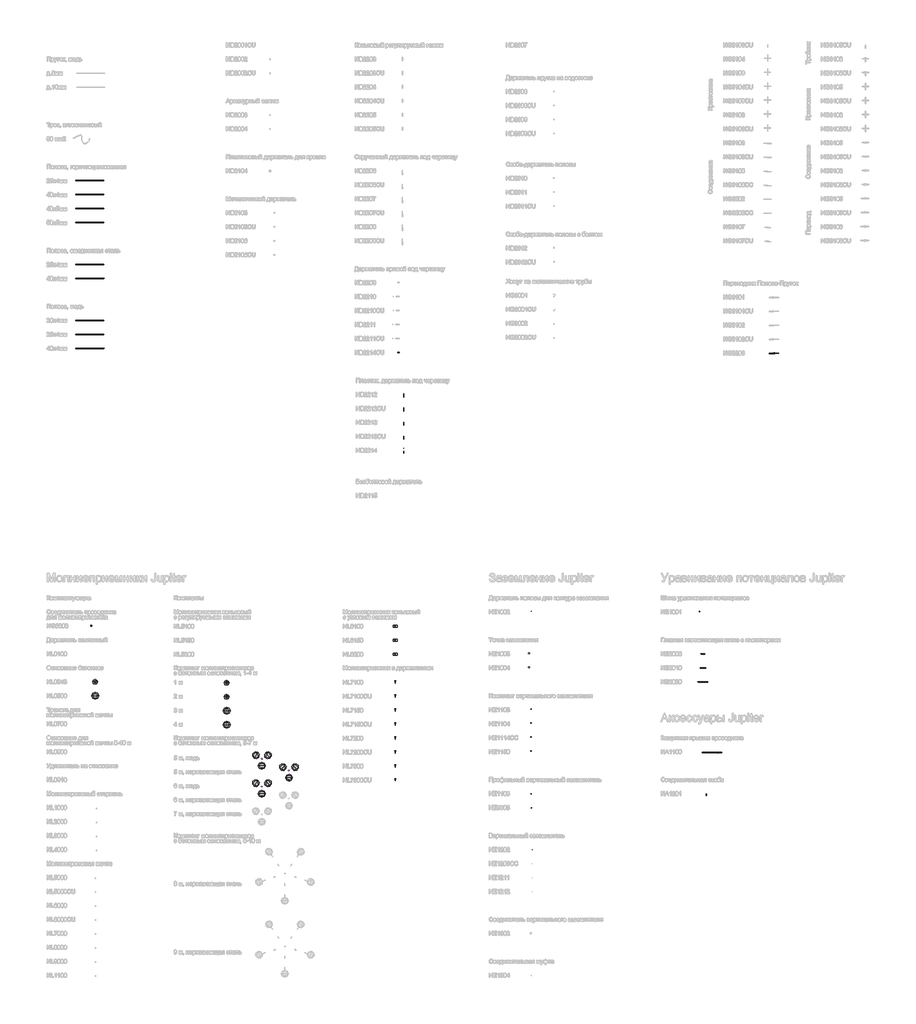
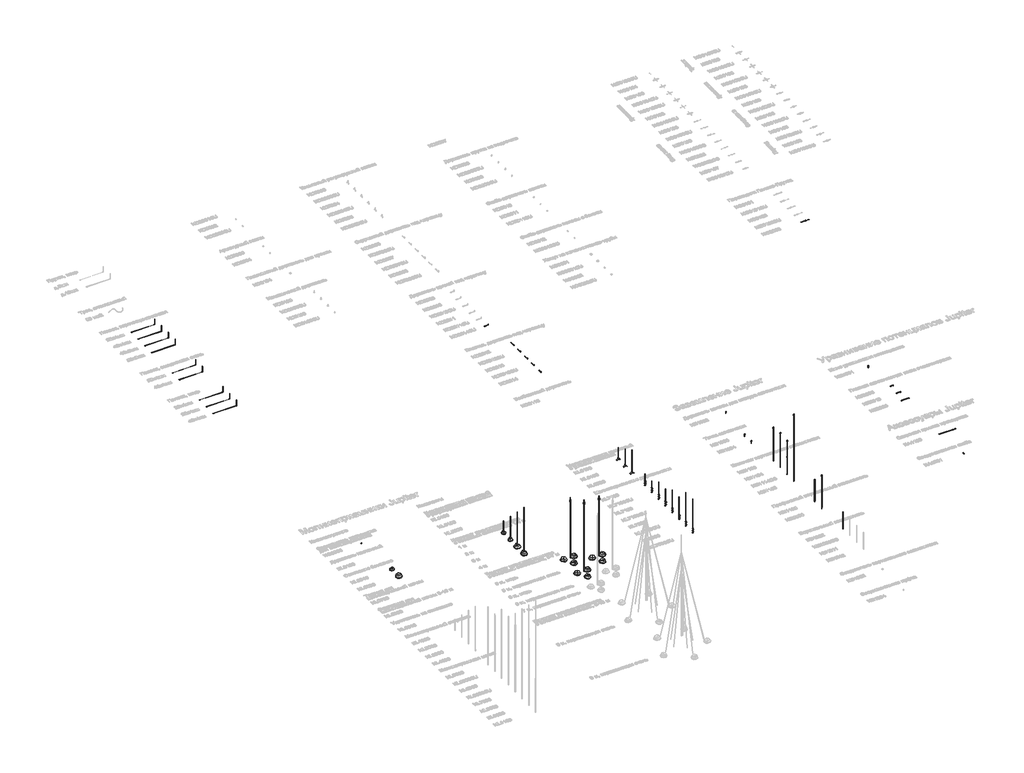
# One storey, part 2 of 124: 69 proxies, 20 duct segments, 9 duct fittings.
"""IFC4 building model written with IfcOpenShell, lengths in millimetres."""

from ifc_helpers import new_model, si_unit, point, frame, frame_2d, origin, place, context, project, spatial, polyline, circle_curve, trimmed, segment, composite_curve, outline, extrude, transform, mapped, element, save
from components import security_devices_b758fb0a, security_devices_eeaf92e3, security_devices_b61f97d0, security_devices_aea7dcd0, security_devices_a4980a0c, security_devices_947c4738, security_devices_8d422149, security_devices_d11747f8, security_devices_d693c095, security_devices_26e087ef, security_devices_0e7c5410, security_devices_e70f869e, security_devices_90d430a2, security_devices_a29eabd2, security_devices_7bfe0d6e, security_devices_3d68f758, security_devices_2357bbe1, security_devices_b0c16ba0, security_devices_8305dbe8, security_devices_c33634d1, security_devices_5422cca0, security_devices_521fa1ab, security_devices_15d1bd6b, security_devices_8a53b376, security_devices_fc05bfcb, security_devices_3e84176e, security_devices_1f405249, security_devices_c975d54c, security_devices_2f55b1ed, security_devices_7a772254, security_devices_4ec9087f, security_devices_2d18d4dd, security_devices_f84dac05, security_devices_a46f9e51, security_devices_b8804d78, ne1001_6f877555, ne2006_d57b77ed, ne2010_22dc5c60, ne2020_a4f37fe4, duct_fitting_d2fdc9aa, duct_fitting_b2aa22a6, duct_fitting_ef8b6955, duct_fitting_4ba52f5c, duct_fitting_e5d23d8e, duct_fitting_60905858

model = new_model("IFC4")

# Units and contexts
model_context = context("Model", 3, world=origin())
ifc_project = project(units=[si_unit("LENGTHUNIT", "METRE", prefix="MILLI")], contexts=[model_context])

# Site, building, storey
site = spatial("IfcSite", under=ifc_project)
building = spatial("IfcBuilding", under=site)
storey = spatial("IfcBuildingStorey", under=building, Name="Этаж 01", Elevation=0.0)

# Proxies
placement = place(None, origin())
security_devices_shape = security_devices_b758fb0a(model_context)
element("IfcBuildingElementProxy", 1, Name="КНС_ESEМолниеприемник_DKC : NI0015_Нержавеющая сталь V4A", ObjectType="КНС_ESEМолниеприемник_DKC : NI0015_Нержавеющая сталь V4A", at=placement, inside=storey, context=model_context, shape_type="MappedRepresentation", body=[
    mapped(security_devices_shape, transform((16677.9827012, -61433.5310744, 5229.993014), x_axis=(1.0, 0.0, 0.0), y_axis=(0.0, 1.0, 0.0), z_axis=(0.0, 0.0, 1.0))),
])
element("IfcBuildingElementProxy", 2, Name="КНС_ESEМолниеприемник_DKC : NI0015_Нержавеющая сталь V4A", ObjectType="КНС_ESEМолниеприемник_DKC : NI0015_Нержавеющая сталь V4A", at=placement, inside=storey, context=model_context, shape_type="MappedRepresentation", body=[
    mapped(security_devices_shape, transform((18612.132508, -62283.8125551, 5229.993014), x_axis=(1.0, 0.0, 0.0), y_axis=(0.0, 1.0, 0.0), z_axis=(0.0, 0.0, 1.0))),
])
element("IfcBuildingElementProxy", 3, Name="КНС_ESEМолниеприемник_DKC : NI0015_Нержавеющая сталь V4A", ObjectType="КНС_ESEМолниеприемник_DKC : NI0015_Нержавеющая сталь V4A", at=placement, inside=storey, context=model_context, shape_type="MappedRepresentation", body=[
    mapped(security_devices_shape, transform((16677.9827012, -63433.5310744, 6229.993014), x_axis=(1.0, 0.0, 0.0), y_axis=(0.0, 1.0, 0.0), z_axis=(0.0, 0.0, 1.0))),
])
security_devices_2_shape = security_devices_eeaf92e3(model_context)
element("IfcBuildingElementProxy", 4, Name="КНС_СоединительESEМолниеприемникМачта_DKC : NG6607_Алюминий", ObjectType="КНС_СоединительESEМолниеприемникМачта_DKC : NG6607_Алюминий", at=placement, inside=storey, context=model_context, shape_type="MappedRepresentation", body=[
    mapped(security_devices_2_shape, transform((16677.9827012, -61433.5310744, 5229.993014), x_axis=(1.0, 0.0, 0.0), y_axis=(0.0, 1.0, 0.0), z_axis=(0.0, 0.0, 1.0))),
])
element("IfcBuildingElementProxy", 5, Name="КНС_СоединительESEМолниеприемникМачта_DKC : NG6607_Алюминий", ObjectType="КНС_СоединительESEМолниеприемникМачта_DKC : NG6607_Алюминий", at=placement, inside=storey, context=model_context, shape_type="MappedRepresentation", body=[
    mapped(security_devices_2_shape, transform((18612.132508, -62283.8125551, 5229.993014), x_axis=(1.0, 0.0, 0.0), y_axis=(0.0, 1.0, 0.0), z_axis=(0.0, 0.0, 1.0))),
])
element("IfcBuildingElementProxy", 6, Name="КНС_СоединительESEМолниеприемникМачта_DKC : NG6607_Алюминий", ObjectType="КНС_СоединительESEМолниеприемникМачта_DKC : NG6607_Алюминий", at=placement, inside=storey, context=model_context, shape_type="MappedRepresentation", body=[
    mapped(security_devices_2_shape, transform((16677.9827012, -63433.5310744, 6229.993014), x_axis=(1.0, 0.0, 0.0), y_axis=(0.0, 1.0, 0.0), z_axis=(0.0, 0.0, 1.0))),
])
security_devices_3_shape = security_devices_b61f97d0(model_context)
element("IfcBuildingElementProxy", 7, Name="КНС_ДержательПолосыДляКонтураЗаземления _DKC : NE1002_Горячеоцинкованная сталь", ObjectType="КНС_ДержательПолосыДляКонтураЗаземления _DKC : NE1002_Горячеоцинкованная сталь", at=placement, inside=storey, context=model_context, shape_type="MappedRepresentation", body=[
    mapped(security_devices_3_shape, transform((35940.0454705, -50883.9339732, 0.0), x_axis=(1.0, 0.0, 0.0), y_axis=(0.0, 1.0, 0.0), z_axis=(0.0, 0.0, 1.0))),
])
security_devices_4_shape = security_devices_aea7dcd0(model_context)
element("IfcBuildingElementProxy", 8, Name="КНС_МачтаМолниеприемная_DKC : NL5000CU_Медь_5м", ObjectType="КНС_МачтаМолниеприемная_DKC : NL5000CU_Медь_5м", at=placement, inside=storey, context=model_context, shape_type="MappedRepresentation", body=[
    mapped(security_devices_4_shape, transform((16677.9814311, -61433.5319567, 229.993014), x_axis=(1.0, 0.0, 0.0), y_axis=(0.0, 1.0, 0.0), z_axis=(0.0, 0.0, 1.0))),
])
element("IfcBuildingElementProxy", 9, Name="КНС_МачтаМолниеприемная_DKC : NL5000_СтальНержавеющая_5м", ObjectType="КНС_МачтаМолниеприемная_DKC : NL5000_СтальНержавеющая_5м", at=placement, inside=storey, context=model_context, shape_type="MappedRepresentation", body=[
    mapped(security_devices_4_shape, transform((18612.131238, -62283.8134373, 229.993014), x_axis=(1.0, 0.0, 0.0), y_axis=(0.0, 1.0, 0.0), z_axis=(0.0, 0.0, 1.0))),
])
security_devices_5_shape = security_devices_a4980a0c(model_context)
element("IfcBuildingElementProxy", 10, Name="КНС_МачтаМолниеприемная_DKC : NL6000CU_Медь_6м", ObjectType="КНС_МачтаМолниеприемная_DKC : NL6000CU_Медь_6м", at=placement, inside=storey, context=model_context, shape_type="MappedRepresentation", body=[
    mapped(security_devices_5_shape, transform((16677.9814311, -63433.5319567, 229.993014), x_axis=(1.0, 0.0, 0.0), y_axis=(0.0, 1.0, 0.0), z_axis=(0.0, 0.0, 1.0))),
])
security_devices_6_shape = security_devices_947c4738(model_context)
element("IfcBuildingElementProxy", 11, Name="КНС_ЗаземлительВертикальныйПрофильный_DKC : NE5503_Горячеоцинкованная сталь_3м", ObjectType="КНС_ЗаземлительВертикальныйПрофильный_DKC : NE5503_Горячеоцинкованная сталь_3м", at=placement, inside=storey, context=model_context, shape_type="MappedRepresentation", body=[
    mapped(security_devices_6_shape, transform((35927.6179104, -64929.4879531, 0.0), x_axis=(1.0, 0.0, 0.0), y_axis=(0.0, 1.0, 0.0), z_axis=(0.0, 0.0, 1.0))),
])
security_devices_7_shape = security_devices_8d422149(model_context)
element("IfcBuildingElementProxy", 12, Name="КНС_КонтрольныйСоединитель_DKC : NG3203_Горячеоцинкованная сталь", ObjectType="КНС_КонтрольныйСоединитель_DKC : NG3203_Горячеоцинкованная сталь", at=placement, inside=storey, context=model_context, shape_type="MappedRepresentation", body=[
    mapped(security_devices_7_shape, transform((53325.3303693, -32431.258676, 0.0), x_axis=(0.0, -1.0, 0.0), y_axis=(1.0, 0.0, 0.0), z_axis=(0.0, 0.0, 1.0))),
])
security_devices_8_shape = security_devices_d11747f8(model_context)
element("IfcBuildingElementProxy", 13, Name="КНС_ДержательПрямойПодЧерепицу_DKC : ND2214CU_Медь_330 мм", ObjectType="КНС_ДержательПрямойПодЧерепицу_DKC : ND2214CU_Медь_330 мм", at=placement, inside=storey, context=model_context, shape_type="MappedRepresentation", body=[
    mapped(security_devices_8_shape, transform((26500.3450598, -32365.2224286, 0.0), x_axis=(0.0, 1.0, 0.0), y_axis=(-1.0, 0.0, 0.0), z_axis=(0.0, 0.0, 1.0))),
])
security_devices_9_shape = security_devices_d693c095(model_context)
element("IfcBuildingElementProxy", 14, Name="КНС_ОсновниеБетонное_DKC : NL0500_Бетон_40кг", ObjectType="КНС_ОсновниеБетонное_DKC : NL0500_Бетон_40кг", at=placement, inside=storey, context=model_context, shape_type="MappedRepresentation", body=[
    mapped(security_devices_9_shape, transform((4740.0, -56933.9372095, 0.0), x_axis=(1.0, 0.0, 0.0), y_axis=(0.0, 1.0, 0.0), z_axis=(0.0, 0.0, 1.0))),
])
element("IfcBuildingElementProxy", 15, Name="КНС_ОсновниеБетонное_DKC : NL0500_Бетон_40кг", ObjectType="КНС_ОсновниеБетонное_DKC : NL0500_Бетон_40кг", at=placement, inside=storey, context=model_context, shape_type="MappedRepresentation", body=[
    mapped(security_devices_9_shape, transform((14151.3043867, -58005.1414304, -30.0), x_axis=(1.0, 0.0, 0.0), y_axis=(0.0, 1.0, 0.0), z_axis=(0.0, 0.0, 1.0))),
])
element("IfcBuildingElementProxy", 16, Name="КНС_ОсновниеБетонное_DKC : NL0500_Бетон_40кг", ObjectType="КНС_ОсновниеБетонное_DKC : NL0500_Бетон_40кг", at=placement, inside=storey, context=model_context, shape_type="MappedRepresentation", body=[
    mapped(security_devices_9_shape, transform((14151.3043867, -59005.1414304, -30.0), x_axis=(1.0, 0.0, 0.0), y_axis=(0.0, 1.0, 0.0), z_axis=(0.0, 0.0, 1.0))),
])
element("IfcBuildingElementProxy", 17, Name="КНС_ОсновниеБетонное_DKC : NL0500_Бетон_40кг", ObjectType="КНС_ОсновниеБетонное_DKC : NL0500_Бетон_40кг", at=placement, inside=storey, context=model_context, shape_type="MappedRepresentation", body=[
    mapped(security_devices_9_shape, transform((16677.9827012, -61933.5306563, 0.0), x_axis=(-1.0, 0.0, 0.0), y_axis=(0.0, -1.0, 0.0), z_axis=(0.0, 0.0, 1.0))),
])
element("IfcBuildingElementProxy", 18, Name="КНС_ОсновниеБетонное_DKC : NL0500_Бетон_40кг", ObjectType="КНС_ОсновниеБетонное_DKC : NL0500_Бетон_40кг", at=placement, inside=storey, context=model_context, shape_type="MappedRepresentation", body=[
    mapped(security_devices_9_shape, transform((16244.9730304, -61183.53157, 0.0), x_axis=(0.5000000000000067, 0.8660254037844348, 0.0), y_axis=(-0.8660254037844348, 0.5000000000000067, 0.0), z_axis=(0.0, 0.0, 1.0))),
])
element("IfcBuildingElementProxy", 19, Name="КНС_ОсновниеБетонное_DKC : NL0500_Бетон_40кг", ObjectType="КНС_ОсновниеБетонное_DKC : NL0500_Бетон_40кг", at=placement, inside=storey, context=model_context, shape_type="MappedRepresentation", body=[
    mapped(security_devices_9_shape, transform((17110.9923719, -61183.5297425, 0.0), x_axis=(0.49999999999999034, -0.8660254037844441, 0.0), y_axis=(0.8660254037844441, 0.49999999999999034, 0.0), z_axis=(0.0, 0.0, 1.0))),
])
element("IfcBuildingElementProxy", 20, Name="КНС_ОсновниеБетонное_DKC : NL0500_Бетон_40кг", ObjectType="КНС_ОсновниеБетонное_DKC : NL0500_Бетон_40кг", at=placement, inside=storey, context=model_context, shape_type="MappedRepresentation", body=[
    mapped(security_devices_9_shape, transform((18612.132508, -62783.8121369, 0.0), x_axis=(-1.0, 0.0, 0.0), y_axis=(0.0, -1.0, 0.0), z_axis=(0.0, 0.0, 1.0))),
])
element("IfcBuildingElementProxy", 21, Name="КНС_ОсновниеБетонное_DKC : NL0500_Бетон_40кг", ObjectType="КНС_ОсновниеБетонное_DKC : NL0500_Бетон_40кг", at=placement, inside=storey, context=model_context, shape_type="MappedRepresentation", body=[
    mapped(security_devices_9_shape, transform((18179.1228373, -62033.8130506, 0.0), x_axis=(0.5000000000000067, 0.8660254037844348, 0.0), y_axis=(-0.8660254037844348, 0.5000000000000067, 0.0), z_axis=(0.0, 0.0, 1.0))),
])
element("IfcBuildingElementProxy", 22, Name="КНС_ОсновниеБетонное_DKC : NL0500_Бетон_40кг", ObjectType="КНС_ОсновниеБетонное_DKC : NL0500_Бетон_40кг", at=placement, inside=storey, context=model_context, shape_type="MappedRepresentation", body=[
    mapped(security_devices_9_shape, transform((19045.1421788, -62033.8112232, 0.0), x_axis=(0.49999999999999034, -0.8660254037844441, 0.0), y_axis=(0.8660254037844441, 0.49999999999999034, 0.0), z_axis=(0.0, 0.0, 1.0))),
])
element("IfcBuildingElementProxy", 23, Name="КНС_ОсновниеБетонное_DKC : NL0500_Бетон_40кг", ObjectType="КНС_ОсновниеБетонное_DKC : NL0500_Бетон_40кг", at=placement, inside=storey, context=model_context, shape_type="MappedRepresentation", body=[
    mapped(security_devices_9_shape, transform((16677.9827012, -63933.5306563, 0.0), x_axis=(-1.0, 0.0, 0.0), y_axis=(0.0, -1.0, 0.0), z_axis=(0.0, 0.0, 1.0))),
])
element("IfcBuildingElementProxy", 24, Name="КНС_ОсновниеБетонное_DKC : NL0500_Бетон_40кг", ObjectType="КНС_ОсновниеБетонное_DKC : NL0500_Бетон_40кг", at=placement, inside=storey, context=model_context, shape_type="MappedRepresentation", body=[
    mapped(security_devices_9_shape, transform((16244.9730304, -63183.53157, 0.0), x_axis=(0.5000000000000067, 0.8660254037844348, 0.0), y_axis=(-0.8660254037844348, 0.5000000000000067, 0.0), z_axis=(0.0, 0.0, 1.0))),
])
element("IfcBuildingElementProxy", 25, Name="КНС_ОсновниеБетонное_DKC : NL0500_Бетон_40кг", ObjectType="КНС_ОсновниеБетонное_DKC : NL0500_Бетон_40кг", at=placement, inside=storey, context=model_context, shape_type="MappedRepresentation", body=[
    mapped(security_devices_9_shape, transform((17110.9923719, -63183.5297425, 0.0), x_axis=(0.49999999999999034, -0.8660254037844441, 0.0), y_axis=(0.8660254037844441, 0.49999999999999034, 0.0), z_axis=(0.0, 0.0, 1.0))),
])
security_devices_10_shape = security_devices_26e087ef(model_context)
element("IfcBuildingElementProxy", 26, Name="КНС_ОсновниеБетонное_DKC : NL0345_Бетон_20кг", ObjectType="КНС_ОсновниеБетонное_DKC : NL0345_Бетон_20кг", at=placement, inside=storey, context=model_context, shape_type="MappedRepresentation", body=[
    mapped(security_devices_10_shape, transform((4740.0, -55933.9372095, 0.0), x_axis=(1.0, 0.0, 0.0), y_axis=(0.0, 1.0, 0.0), z_axis=(0.0, 0.0, 1.0))),
])
element("IfcBuildingElementProxy", 27, Name="КНС_ОсновниеБетонное_DKC : NL0345_Бетон_20кг", ObjectType="КНС_ОсновниеБетонное_DKC : NL0345_Бетон_20кг", at=placement, inside=storey, context=model_context, shape_type="MappedRepresentation", body=[
    mapped(security_devices_10_shape, transform((14151.3043867, -56005.1414304, 0.0), x_axis=(1.0, 0.0, 0.0), y_axis=(0.0, 1.0, 0.0), z_axis=(0.0, 0.0, 1.0))),
])
element("IfcBuildingElementProxy", 28, Name="КНС_ОсновниеБетонное_DKC : NL0345_Бетон_20кг", ObjectType="КНС_ОсновниеБетонное_DKC : NL0345_Бетон_20кг", at=placement, inside=storey, context=model_context, shape_type="MappedRepresentation", body=[
    mapped(security_devices_10_shape, transform((14151.3043867, -57005.1414304, 0.0), x_axis=(1.0, 0.0, 0.0), y_axis=(0.0, 1.0, 0.0), z_axis=(0.0, 0.0, 1.0))),
])
security_devices_11_shape = security_devices_0e7c5410(model_context)
element("IfcBuildingElementProxy", 29, Name="КНС_СоединительПроводникаДляМолниеприемника_DKC : NG6606_Горячеоцинкованная сталь", ObjectType="КНС_СоединительПроводникаДляМолниеприемника_DKC : NG6606_Горячеоцинкованная сталь", at=placement, inside=storey, context=model_context, shape_type="MappedRepresentation", body=[
    mapped(security_devices_11_shape, transform((4467.1446169, -51911.5407617, 0.0), x_axis=(1.0, 0.0, 0.0), y_axis=(0.0, 1.0, 0.0), z_axis=(0.0, 0.0, 1.0))),
])
element("IfcBuildingElementProxy", 30, Name="КНС_СоединительПроводникаДляМолниеприемника_DKC : NG6606_Горячеоцинкованная сталь", ObjectType="КНС_СоединительПроводникаДляМолниеприемника_DKC : NG6606_Горячеоцинкованная сталь", at=placement, inside=storey, context=model_context, shape_type="MappedRepresentation", body=[
    mapped(security_devices_11_shape, transform((14151.3043867, -55912.6414304, 160.0), x_axis=(1.0, 0.0, 0.0), y_axis=(0.0, 1.0, 0.0), z_axis=(0.0, 0.0, 1.0))),
])
element("IfcBuildingElementProxy", 31, Name="КНС_СоединительПроводникаДляМолниеприемника_DKC : NG6606_Горячеоцинкованная сталь", ObjectType="КНС_СоединительПроводникаДляМолниеприемника_DKC : NG6606_Горячеоцинкованная сталь", at=placement, inside=storey, context=model_context, shape_type="MappedRepresentation", body=[
    mapped(security_devices_11_shape, transform((14151.3043867, -56912.6414304, 160.0), x_axis=(1.0, 0.0, 0.0), y_axis=(0.0, 1.0, 0.0), z_axis=(0.0, 0.0, 1.0))),
])
element("IfcBuildingElementProxy", 32, Name="КНС_СоединительПроводникаДляМолниеприемника_DKC : NG6606_Горячеоцинкованная сталь", ObjectType="КНС_СоединительПроводникаДляМолниеприемника_DKC : NG6606_Горячеоцинкованная сталь", at=placement, inside=storey, context=model_context, shape_type="MappedRepresentation", body=[
    mapped(security_devices_11_shape, transform((14151.3043867, -57835.1414304, 160.0), x_axis=(1.0, 0.0, 0.0), y_axis=(0.0, 1.0, 0.0), z_axis=(0.0, 0.0, 1.0))),
])
element("IfcBuildingElementProxy", 33, Name="КНС_СоединительПроводникаДляМолниеприемника_DKC : NG6606_Горячеоцинкованная сталь", ObjectType="КНС_СоединительПроводникаДляМолниеприемника_DKC : NG6606_Горячеоцинкованная сталь", at=placement, inside=storey, context=model_context, shape_type="MappedRepresentation", body=[
    mapped(security_devices_11_shape, transform((14151.3043867, -58835.1414304, 160.0), x_axis=(1.0, 0.0, 0.0), y_axis=(0.0, 1.0, 0.0), z_axis=(0.0, 0.0, 1.0))),
])
element("IfcBuildingElementProxy", 34, Name="КНС_СоединительПроводникаДляМолниеприемника_DKC : NG6606_Горячеоцинкованная сталь", ObjectType="КНС_СоединительПроводникаДляМолниеприемника_DKC : NG6606_Горячеоцинкованная сталь", at=placement, inside=storey, context=model_context, shape_type="MappedRepresentation", body=[
    mapped(security_devices_11_shape, transform((16677.9827012, -62103.5306563, 192.5), x_axis=(1.0, 0.0, 0.0), y_axis=(0.0, 1.0, 0.0), z_axis=(0.0, 0.0, 1.0))),
])
element("IfcBuildingElementProxy", 35, Name="КНС_СоединительПроводникаДляМолниеприемника_DKC : NG6606_Горячеоцинкованная сталь", ObjectType="КНС_СоединительПроводникаДляМолниеприемника_DKC : NG6606_Горячеоцинкованная сталь", at=placement, inside=storey, context=model_context, shape_type="MappedRepresentation", body=[
    mapped(security_devices_11_shape, transform((18612.132508, -62953.8121369, 192.5), x_axis=(1.0, 0.0, 0.0), y_axis=(0.0, 1.0, 0.0), z_axis=(0.0, 0.0, 1.0))),
])
security_devices_12_shape = security_devices_e70f869e(model_context)
element("IfcBuildingElementProxy", 36, Name="КНС_СтерженьМолниеприемный_DKC : NL1000_Алюминий_1м", ObjectType="КНС_СтерженьМолниеприемный_DKC : NL1000_Алюминий_1м", at=placement, inside=storey, context=model_context, shape_type="MappedRepresentation", body=[
    mapped(security_devices_12_shape, transform((14151.3043867, -56005.1414304, 130.0), x_axis=(1.0, 0.0, 0.0), y_axis=(0.0, 1.0, 0.0), z_axis=(0.0, 0.0, 1.0))),
])
security_devices_13_shape = security_devices_90d430a2(model_context)
element("IfcBuildingElementProxy", 37, Name="КНС_СтерженьМолниеприемный_DKC : NL2000_Алюминий_2м", ObjectType="КНС_СтерженьМолниеприемный_DKC : NL2000_Алюминий_2м", at=placement, inside=storey, context=model_context, shape_type="MappedRepresentation", body=[
    mapped(security_devices_13_shape, transform((14151.3043867, -57005.1414304, 130.0), x_axis=(1.0, 0.0, 0.0), y_axis=(0.0, 1.0, 0.0), z_axis=(0.0, 0.0, 1.0))),
])
security_devices_14_shape = security_devices_a29eabd2(model_context)
element("IfcBuildingElementProxy", 38, Name="КНС_СтерженьМолниеприемный_DKC : NL3000_Алюминий_3м", ObjectType="КНС_СтерженьМолниеприемный_DKC : NL3000_Алюминий_3м", at=placement, inside=storey, context=model_context, shape_type="MappedRepresentation", body=[
    mapped(security_devices_14_shape, transform((14151.3043867, -58005.1414304, 130.0), x_axis=(1.0, 0.0, 0.0), y_axis=(0.0, 1.0, 0.0), z_axis=(0.0, 0.0, 1.0))),
])
security_devices_15_shape = security_devices_7bfe0d6e(model_context)
element("IfcBuildingElementProxy", 39, Name="КНС_СтерженьМолниеприемный_DKC : NL4000_Алюминий_4м", ObjectType="КНС_СтерженьМолниеприемный_DKC : NL4000_Алюминий_4м", at=placement, inside=storey, context=model_context, shape_type="MappedRepresentation", body=[
    mapped(security_devices_15_shape, transform((14151.3043867, -59005.1414304, 130.0), x_axis=(1.0, 0.0, 0.0), y_axis=(0.0, 1.0, 0.0), z_axis=(0.0, 0.0, 1.0))),
])
security_devices_16_shape = security_devices_3d68f758(model_context)
element("IfcBuildingElementProxy", 40, Name="КНС_ДержательПластиковыйПодЧерепицу_DKC : ND2214_Горячеоцинкованная сталь_330 мм", ObjectType="КНС_ДержательПластиковыйПодЧерепицу_DKC : ND2214_Горячеоцинкованная сталь_330 мм", at=placement, inside=storey, context=model_context, shape_type="MappedRepresentation", body=[
    mapped(security_devices_16_shape, transform((26826.2410235, -39565.2224286, 0.0), x_axis=(1.0, 0.0, 0.0), y_axis=(0.0, 1.0, 0.0), z_axis=(0.0, 0.0, 1.0))),
])
security_devices_17_shape = security_devices_2357bbe1(model_context)
element("IfcBuildingElementProxy", 41, Name="КНС_ДержательПластиковыйПодЧерепицу_DKC : ND2213_Горячеоцинкованная сталь_415 мм", ObjectType="КНС_ДержательПластиковыйПодЧерепицу_DKC : ND2213_Горячеоцинкованная сталь_415 мм", at=placement, inside=storey, context=model_context, shape_type="MappedRepresentation", body=[
    mapped(security_devices_17_shape, transform((26826.2410235, -37565.2224286, 0.0), x_axis=(1.0, 0.0, 0.0), y_axis=(0.0, 1.0, 0.0), z_axis=(0.0, 0.0, 1.0))),
])
element("IfcBuildingElementProxy", 42, Name="КНС_ДержательПластиковыйПодЧерепицу_DKC : ND2213CU_Медь_415 мм", ObjectType="КНС_ДержательПластиковыйПодЧерепицу_DKC : ND2213CU_Медь_415 мм", at=placement, inside=storey, context=model_context, shape_type="MappedRepresentation", body=[
    mapped(security_devices_17_shape, transform((26826.2410235, -38565.2224286, 0.0), x_axis=(1.0, 0.0, 0.0), y_axis=(0.0, 1.0, 0.0), z_axis=(0.0, 0.0, 1.0))),
])
security_devices_18_shape = security_devices_b0c16ba0(model_context)
element("IfcBuildingElementProxy", 43, Name="КНС_ДержательПластиковыйПодЧерепицу_DKC : ND2212_Горячеоцинкованная сталь_450 мм", ObjectType="КНС_ДержательПластиковыйПодЧерепицу_DKC : ND2212_Горячеоцинкованная сталь_450 мм", at=placement, inside=storey, context=model_context, shape_type="MappedRepresentation", body=[
    mapped(security_devices_18_shape, transform((26826.2410235, -35565.2224286, 0.0), x_axis=(1.0, 0.0, 0.0), y_axis=(0.0, 1.0, 0.0), z_axis=(0.0, 0.0, 1.0))),
])
element("IfcBuildingElementProxy", 44, Name="КНС_ДержательПластиковыйПодЧерепицу_DKC : ND2212CU_Медь_450 мм", ObjectType="КНС_ДержательПластиковыйПодЧерепицу_DKC : ND2212CU_Медь_450 мм", at=placement, inside=storey, context=model_context, shape_type="MappedRepresentation", body=[
    mapped(security_devices_18_shape, transform((26826.2410235, -36565.2224286, 0.0), x_axis=(1.0, 0.0, 0.0), y_axis=(0.0, 1.0, 0.0), z_axis=(0.0, 0.0, 1.0))),
])
security_devices_19_shape = security_devices_8305dbe8(model_context)
element("IfcBuildingElementProxy", 45, Name="КНС_МолниеприемникКоньковыйСУгловымЗажимом_DKC : NL6100_Алюминий_1м", ObjectType="КНС_МолниеприемникКоньковыйСУгловымЗажимом_DKC : NL6100_Алюминий_1м", at=placement, inside=storey, context=model_context, shape_type="MappedRepresentation", body=[
    mapped(security_devices_19_shape, transform((26203.5281471, -51959.6443297, 0.0), x_axis=(1.0, 0.0, 0.0), y_axis=(0.0, 1.0, 0.0), z_axis=(0.0, 0.0, 1.0))),
])
security_devices_20_shape = security_devices_c33634d1(model_context)
element("IfcBuildingElementProxy", 46, Name="КНС_МолниеприемникКоньковыйСУгловымЗажимом_DKC : NL6200_Алюминий_2м", ObjectType="КНС_МолниеприемникКоньковыйСУгловымЗажимом_DKC : NL6200_Алюминий_2м", at=placement, inside=storey, context=model_context, shape_type="MappedRepresentation", body=[
    mapped(security_devices_20_shape, transform((26203.5281471, -53959.6443297, 0.0), x_axis=(1.0, 0.0, 0.0), y_axis=(0.0, 1.0, 0.0), z_axis=(0.0, 0.0, 1.0))),
])
security_devices_21_shape = security_devices_5422cca0(model_context)
element("IfcBuildingElementProxy", 47, Name="КНС_МолниеприемникКоньковыйСУгловымЗажимом_DKC : NL6150_Алюминий_1.5м", ObjectType="КНС_МолниеприемникКоньковыйСУгловымЗажимом_DKC : NL6150_Алюминий_1.5м", at=placement, inside=storey, context=model_context, shape_type="MappedRepresentation", body=[
    mapped(security_devices_21_shape, transform((26203.5281471, -52959.6443297, 0.0), x_axis=(1.0, 0.0, 0.0), y_axis=(0.0, 1.0, 0.0), z_axis=(0.0, 0.0, 1.0))),
])
security_devices_22_shape = security_devices_521fa1ab(model_context)
element("IfcBuildingElementProxy", 48, Name="КНС_МолниеприемникСДержателями_DKC : NL7100_Алюминий_1м", ObjectType="КНС_МолниеприемникСДержателями_DKC : NL7100_Алюминий_1м", at=placement, inside=storey, context=model_context, shape_type="MappedRepresentation", body=[
    mapped(security_devices_22_shape, transform((26203.5281471, -55959.6443297, 0.0), x_axis=(1.0, 0.0, 0.0), y_axis=(0.0, 1.0, 0.0), z_axis=(0.0, 0.0, 1.0))),
])
security_devices_23_shape = security_devices_15d1bd6b(model_context)
element("IfcBuildingElementProxy", 49, Name="КНС_МолниеприемникСДержателями_DKC : NL7150_Алюминий_1.5м", ObjectType="КНС_МолниеприемникСДержателями_DKC : NL7150_Алюминий_1.5м", at=placement, inside=storey, context=model_context, shape_type="MappedRepresentation", body=[
    mapped(security_devices_23_shape, transform((26203.5281471, -57959.6443297, 0.0), x_axis=(1.0, 0.0, 0.0), y_axis=(0.0, 1.0, 0.0), z_axis=(0.0, 0.0, 1.0))),
])
security_devices_24_shape = security_devices_8a53b376(model_context)
element("IfcBuildingElementProxy", 50, Name="КНС_МолниеприемникСДержателями_DKC : NL7200_Алюминий_2м", ObjectType="КНС_МолниеприемникСДержателями_DKC : NL7200_Алюминий_2м", at=placement, inside=storey, context=model_context, shape_type="MappedRepresentation", body=[
    mapped(security_devices_24_shape, transform((26203.5281471, -59959.6443297, 0.0), x_axis=(1.0, 0.0, 0.0), y_axis=(0.0, 1.0, 0.0), z_axis=(0.0, 0.0, 1.0))),
])
security_devices_25_shape = security_devices_fc05bfcb(model_context)
element("IfcBuildingElementProxy", 51, Name="КНС_МолниеприемникСДержателями_DKC : NL7300_Алюминий_3м", ObjectType="КНС_МолниеприемникСДержателями_DKC : NL7300_Алюминий_3м", at=placement, inside=storey, context=model_context, shape_type="MappedRepresentation", body=[
    mapped(security_devices_25_shape, transform((26203.5281471, -61959.6443297, 0.0), x_axis=(1.0, 0.0, 0.0), y_axis=(0.0, 1.0, 0.0), z_axis=(0.0, 0.0, 1.0))),
])
element("IfcBuildingElementProxy", 52, Name="КНС_МолниеприемникСДержателями_DKC : NL7100CU_Медь_1м", ObjectType="КНС_МолниеприемникСДержателями_DKC : NL7100CU_Медь_1м", at=placement, inside=storey, context=model_context, shape_type="MappedRepresentation", body=[
    mapped(security_devices_22_shape, transform((26203.5281471, -56959.6443297, 0.0), x_axis=(1.0, 0.0, 0.0), y_axis=(0.0, 1.0, 0.0), z_axis=(0.0, 0.0, 1.0))),
])
element("IfcBuildingElementProxy", 53, Name="КНС_МолниеприемникСДержателями_DKC : NL7150CU_Медь_1.5м", ObjectType="КНС_МолниеприемникСДержателями_DKC : NL7150CU_Медь_1.5м", at=placement, inside=storey, context=model_context, shape_type="MappedRepresentation", body=[
    mapped(security_devices_23_shape, transform((26203.5281471, -58959.6443297, 0.0), x_axis=(1.0, 0.0, 0.0), y_axis=(0.0, 1.0, 0.0), z_axis=(0.0, 0.0, 1.0))),
])
element("IfcBuildingElementProxy", 54, Name="КНС_МолниеприемникСДержателями_DKC : NL7200CU_Медь_2м", ObjectType="КНС_МолниеприемникСДержателями_DKC : NL7200CU_Медь_2м", at=placement, inside=storey, context=model_context, shape_type="MappedRepresentation", body=[
    mapped(security_devices_24_shape, transform((26203.5281471, -60959.6443297, 0.0), x_axis=(1.0, 0.0, 0.0), y_axis=(0.0, 1.0, 0.0), z_axis=(0.0, 0.0, 1.0))),
])
element("IfcBuildingElementProxy", 55, Name="КНС_МолниеприемникСДержателями_DKC : NL7300CU_Медь_3м", ObjectType="КНС_МолниеприемникСДержателями_DKC : NL7300CU_Медь_3м", at=placement, inside=storey, context=model_context, shape_type="MappedRepresentation", body=[
    mapped(security_devices_25_shape, transform((26203.5281471, -62959.6443297, 0.0), x_axis=(1.0, 0.0, 0.0), y_axis=(0.0, 1.0, 0.0), z_axis=(0.0, 0.0, 1.0))),
])
security_devices_26_shape = security_devices_3e84176e(model_context)
element("IfcBuildingElementProxy", 56, Name="КНС_ТочкаЗаземления_DKC : NE1003_Нержавеющая сталь_М10", ObjectType="КНС_ТочкаЗаземления_DKC : NE1003_Нержавеющая сталь_М10", at=placement, inside=storey, context=model_context, shape_type="MappedRepresentation", body=[
    mapped(security_devices_26_shape, transform((35786.1965542, -53883.9339732, 0.0), x_axis=(1.0, 0.0, 0.0), y_axis=(0.0, 1.0, 0.0), z_axis=(0.0, 0.0, 1.0))),
])
security_devices_27_shape = security_devices_1f405249(model_context)
element("IfcBuildingElementProxy", 57, Name="КНС_ТочкаЗаземления_DKC : NE1004_Нержавеющая сталь_М12", ObjectType="КНС_ТочкаЗаземления_DKC : NE1004_Нержавеющая сталь_М12", at=placement, inside=storey, context=model_context, shape_type="MappedRepresentation", body=[
    mapped(security_devices_27_shape, transform((35786.1965542, -54883.9339732, 0.0), x_axis=(1.0, 0.0, 0.0), y_axis=(0.0, 1.0, 0.0), z_axis=(0.0, 0.0, 1.0))),
])
security_devices_28_shape = security_devices_c975d54c(model_context)
element("IfcBuildingElementProxy", 58, Name="КНС_КомплектВертикальногоЗаземлителя_DKC : NE1114CC_Омеднённая сталь_3м", ObjectType="КНС_КомплектВертикальногоЗаземлителя_DKC : NE1114CC_Омеднённая сталь_3м", at=placement, inside=storey, context=model_context, shape_type="MappedRepresentation", body=[
    mapped(security_devices_28_shape, transform((35927.6179104, -59881.6280436, 0.0), x_axis=(1.0, 0.0, 0.0), y_axis=(0.0, 1.0, 0.0), z_axis=(0.0, 0.0, 1.0))),
])
security_devices_29_shape = security_devices_2f55b1ed(model_context)
element("IfcBuildingElementProxy", 59, Name="КНС_КомплектВертикальногоЗаземлителя_DKC : NE1103_Горячеоцинкованная сталь_3м", ObjectType="КНС_КомплектВертикальногоЗаземлителя_DKC : NE1103_Горячеоцинкованная сталь_3м", at=placement, inside=storey, context=model_context, shape_type="MappedRepresentation", body=[
    mapped(security_devices_29_shape, transform((35927.6179104, -57881.6280436, 0.0), x_axis=(1.0, 0.0, 0.0), y_axis=(0.0, 1.0, 0.0), z_axis=(0.0, 0.0, 1.0))),
])
security_devices_30_shape = security_devices_7a772254(model_context)
element("IfcBuildingElementProxy", 60, Name="КНС_КомплектВертикальногоЗаземлителя_DKC : NE1150_Горячеоцинкованная сталь_6м", ObjectType="КНС_КомплектВертикальногоЗаземлителя_DKC : NE1150_Горячеоцинкованная сталь_6м", at=placement, inside=storey, context=model_context, shape_type="MappedRepresentation", body=[
    mapped(security_devices_30_shape, transform((35927.6179104, -60881.6280436, 0.0), x_axis=(1.0, 0.0, 0.0), y_axis=(0.0, 1.0, 0.0), z_axis=(0.0, 0.0, 1.0))),
])
security_devices_31_shape = security_devices_4ec9087f(model_context)
element("IfcBuildingElementProxy", 61, Name="КНС_КомплектВертикальногоЗаземлителя_DKC : NE1104_Горячеоцинкованная сталь_3м", ObjectType="КНС_КомплектВертикальногоЗаземлителя_DKC : NE1104_Горячеоцинкованная сталь_3м", at=placement, inside=storey, context=model_context, shape_type="MappedRepresentation", body=[
    mapped(security_devices_31_shape, transform((35927.6179104, -58881.6280436, 0.0), x_axis=(1.0, 0.0, 0.0), y_axis=(0.0, 1.0, 0.0), z_axis=(0.0, 0.0, 1.0))),
])
security_devices_32_shape = security_devices_2d18d4dd(model_context)
element("IfcBuildingElementProxy", 62, Name="КНС_ЗаземлительВертикальныйПрофильный_DKC : NE1105_Горячеоцинкованная сталь_2м", ObjectType="КНС_ЗаземлительВертикальныйПрофильный_DKC : NE1105_Горячеоцинкованная сталь_2м", at=placement, inside=storey, context=model_context, shape_type="MappedRepresentation", body=[
    mapped(security_devices_32_shape, transform((35927.6179104, -63929.4879531, 0.0), x_axis=(1.0, 0.0, 0.0), y_axis=(0.0, 1.0, 0.0), z_axis=(0.0, 0.0, 1.0))),
])
security_devices_33_shape = security_devices_f84dac05(model_context)
element("IfcBuildingElementProxy", 63, Name="КНС_ЗаземлительВертикальный_DKC : NE1202_Горячеоцинкованная сталь_D16", ObjectType="КНС_ЗаземлительВертикальный_DKC : NE1202_Горячеоцинкованная сталь_D16", at=placement, inside=storey, context=model_context, shape_type="MappedRepresentation", body=[
    mapped(security_devices_33_shape, transform((36009.8491071, -67948.2453215, 0.0), x_axis=(1.0, 0.0, 0.0), y_axis=(0.0, 1.0, 0.0), z_axis=(0.0, 0.0, 1.0))),
])
security_devices_34_shape = security_devices_a46f9e51(model_context)
element("IfcBuildingElementProxy", 64, Name="КНС_ЗащитнаяКрышкаПроводника_DKC : NA1100_Горячеоцинкованная сталь", ObjectType="КНС_ЗащитнаяКрышкаПроводника_DKC : NA1100_Горячеоцинкованная сталь", at=placement, inside=storey, context=model_context, shape_type="MappedRepresentation", body=[
    mapped(security_devices_34_shape, transform((48861.1011674, -60993.6402723, 0.0), x_axis=(1.0, 0.0, 0.0), y_axis=(0.0, 1.0, 0.0), z_axis=(0.0, 0.0, 1.0))),
])
security_devices_35_shape = security_devices_b8804d78(model_context)
element("IfcBuildingElementProxy", 65, Name="КНС_СкобаСоединительная_DKC : NA1201_Алюминий", ObjectType="КНС_СкобаСоединительная_DKC : NA1201_Алюминий", at=placement, inside=storey, context=model_context, shape_type="MappedRepresentation", body=[
    mapped(security_devices_35_shape, transform((48493.1900536, -64008.065053, 0.0), x_axis=(1.0, 0.0, 0.0), y_axis=(0.0, 1.0, 0.0), z_axis=(0.0, 0.0, 1.0))),
])
ne1001_shape = ne1001_6f877555(model_context)
element("IfcBuildingElementProxy", 66, Name="КНС_ШинаУравниванияПотенциалов_DKC : NE1001", ObjectType="КНС_ШинаУравниванияПотенциалов_DKC : NE1001", at=placement, inside=storey, context=model_context, shape_type="MappedRepresentation", body=[
    mapped(ne1001_shape, transform((47980.0454705, -50883.9339732, 0.0), x_axis=(1.0, 0.0, 0.0), y_axis=(0.0, 1.0, 0.0), z_axis=(0.0, 0.0, 1.0))),
])
ne2006_shape = ne2006_d57b77ed(model_context)
element("IfcBuildingElementProxy", 67, Name="КНС_ШинаГлавнаяЗаземляющаяСИзоляторами_DKC : NE2006", ObjectType="КНС_ШинаГлавнаяЗаземляющаяСИзоляторами_DKC : NE2006", at=placement, inside=storey, context=model_context, shape_type="MappedRepresentation", body=[
    mapped(ne2006_shape, transform((48219.4878624, -53934.263805, 0.0), x_axis=(1.0, 0.0, 0.0), y_axis=(0.0, 1.0, 0.0), z_axis=(0.0, 0.0, 1.0))),
])
ne2010_shape = ne2010_22dc5c60(model_context)
element("IfcBuildingElementProxy", 68, Name="КНС_ШинаГлавнаяЗаземляющаяСИзоляторами_DKC : NE2010", ObjectType="КНС_ШинаГлавнаяЗаземляющаяСИзоляторами_DKC : NE2010", at=placement, inside=storey, context=model_context, shape_type="MappedRepresentation", body=[
    mapped(ne2010_shape, transform((48219.4878624, -54934.263805, 0.0), x_axis=(1.0, 0.0, 0.0), y_axis=(0.0, 1.0, 0.0), z_axis=(0.0, 0.0, 1.0))),
])
ne2020_shape = ne2020_a4f37fe4(model_context)
element("IfcBuildingElementProxy", 69, Name="КНС_ШинаГлавнаяЗаземляющаяСИзоляторами_DKC : NE2020", ObjectType="КНС_ШинаГлавнаяЗаземляющаяСИзоляторами_DKC : NE2020", at=placement, inside=storey, context=model_context, shape_type="MappedRepresentation", body=[
    mapped(ne2020_shape, transform((48219.4878624, -55934.263805, 0.0), x_axis=(1.0, 0.0, 0.0), y_axis=(0.0, 1.0, 0.0), z_axis=(0.0, 0.0, 1.0))),
])

# Duct fittings
duct_fitting_shape = duct_fitting_d2fdc9aa(model_context)
element("IfcDuctFitting", 70, ObjectType="КНС_Поворот_Полоса_Неспецифицируемое_DKC : Изгиб полосы", at=placement, inside=storey, context=model_context, shape_type="MappedRepresentation", body=[
    mapped(duct_fitting_shape, transform((5357.4795984, -20073.326034, 0.0), x_axis=(1.0, 0.0, 0.0), y_axis=(0.0, 0.0, 1.0), z_axis=(0.0, -1.0, 0.0))),
])
element("IfcDuctFitting", 71, ObjectType="КНС_Поворот_Полоса_Неспецифицируемое_DKC : Изгиб полосы", at=placement, inside=storey, context=model_context, shape_type="MappedRepresentation", body=[
    mapped(duct_fitting_shape, transform((5357.4795984, -26073.326034, 0.0), x_axis=(1.0, 0.0, 0.0), y_axis=(0.0, 0.0, 1.0), z_axis=(0.0, -1.0, 0.0))),
])
element("IfcDuctFitting", 72, ObjectType="КНС_Поворот_Полоса_Неспецифицируемое_DKC : Изгиб полосы", at=placement, inside=storey, context=model_context, shape_type="MappedRepresentation", body=[
    mapped(duct_fitting_shape, transform((5357.4795984, -31073.326034, 0.0), x_axis=(1.0, 0.0, 0.0), y_axis=(0.0, 0.0, 1.0), z_axis=(0.0, -1.0, 0.0))),
])
duct_fitting_2_shape = duct_fitting_b2aa22a6(model_context)
element("IfcDuctFitting", 73, ObjectType="КНС_Поворот_Полоса_Неспецифицируемое_DKC : Изгиб полосы", at=placement, inside=storey, context=model_context, shape_type="MappedRepresentation", body=[
    mapped(duct_fitting_2_shape, transform((5357.4795984, -22073.326034, 0.0), x_axis=(1.0, 0.0, 0.0), y_axis=(0.0, 0.0, 1.0), z_axis=(0.0, -1.0, 0.0))),
])
duct_fitting_3_shape = duct_fitting_ef8b6955(model_context)
element("IfcDuctFitting", 74, ObjectType="КНС_Поворот_Полоса_Неспецифицируемое_DKC : Изгиб полосы", at=placement, inside=storey, context=model_context, shape_type="MappedRepresentation", body=[
    mapped(duct_fitting_3_shape, transform((5357.4795984, -23073.326034, 0.0), x_axis=(1.0, 0.0, 0.0), y_axis=(0.0, 0.0, 1.0), z_axis=(0.0, -1.0, 0.0))),
])
duct_fitting_4_shape = duct_fitting_4ba52f5c(model_context)
element("IfcDuctFitting", 75, ObjectType="КНС_Поворот_Полоса_Неспецифицируемое_DKC : Изгиб полосы", at=placement, inside=storey, context=model_context, shape_type="MappedRepresentation", body=[
    mapped(duct_fitting_4_shape, transform((5357.4795984, -30073.326034, 0.0), x_axis=(1.0, 0.0, 0.0), y_axis=(0.0, 0.0, 1.0), z_axis=(0.0, -1.0, 0.0))),
])
duct_fitting_5_shape = duct_fitting_e5d23d8e(model_context)
element("IfcDuctFitting", 76, ObjectType="КНС_Поворот_Полоса_Неспецифицируемое_DKC : Изгиб полосы", at=placement, inside=storey, context=model_context, shape_type="MappedRepresentation", body=[
    mapped(duct_fitting_5_shape, transform((5357.4795984, -21073.326034, 0.0), x_axis=(1.0, 0.0, 0.0), y_axis=(0.0, 0.0, 1.0), z_axis=(0.0, -1.0, 0.0))),
])
duct_fitting_6_shape = duct_fitting_60905858(model_context)
element("IfcDuctFitting", 77, ObjectType="КНС_Поворот_Полоса_Неспецифицируемое_DKC : Изгиб полосы", at=placement, inside=storey, context=model_context, shape_type="MappedRepresentation", body=[
    mapped(duct_fitting_6_shape, transform((5357.4795984, -27073.326034, 0.0), x_axis=(1.0, 0.0, 0.0), y_axis=(0.0, 0.0, 1.0), z_axis=(0.0, -1.0, 0.0))),
])
element("IfcDuctFitting", 78, ObjectType="КНС_Поворот_Полоса_Неспецифицируемое_DKC : Изгиб полосы", at=placement, inside=storey, context=model_context, shape_type="MappedRepresentation", body=[
    mapped(duct_fitting_6_shape, transform((5357.4795984, -32073.326034, 0.0), x_axis=(1.0, 0.0, 0.0), y_axis=(0.0, 0.0, 1.0), z_axis=(0.0, -1.0, 0.0))),
])

# Duct segments
element("IfcDuctSegment", 79, ObjectType="КНС_Полоса_Горячеоцинкованная_25х4/40х4/40x5/50х5мм_DKC", at=placement, inside=storey, context=model_context, shape_type="SweptSolid", body=[
    extrude(outline(polyline([(3357.4795984, -20085.826034), (3357.4795984, -20060.826034), (5345.4795984, -20060.826034), (5345.4795984, -20085.826034), (3357.4795984, -20085.826034)])), frame((0.0, 0.0, -2.0), z_axis=(0.0, 0.0, 1.0), x_axis=(1.0, 0.0, 0.0)), (0.0, 0.0, 1.0), 4.0),
])
element("IfcDuctSegment", 80, ObjectType="КНС_Полоса_Горячеоцинкованная_25х4/40х4/40x5/50х5мм_DKC", at=placement, inside=storey, context=model_context, shape_type="SweptSolid", body=[
    extrude(outline(polyline([(5359.4795984, -20085.826034), (5355.4795984, -20085.826034), (5355.4795984, -20060.826034), (5359.4795984, -20060.826034), (5359.4795984, -20085.826034)])), frame((0.0, 0.0, 12.0), z_axis=(0.0, 0.0, 1.0), x_axis=(1.0, 0.0, 0.0)), (0.0, 0.0, 1.0), 488.0),
])
element("IfcDuctSegment", 81, ObjectType="КНС_Полоса_Горячеоцинкованная_25х4/40х4/40x5/50х5мм_DKC", at=placement, inside=storey, context=model_context, shape_type="SweptSolid", body=[
    extrude(outline(polyline([(3357.4795984, -21093.326034), (3357.4795984, -21053.326034), (5345.4795984, -21053.326034), (5345.4795984, -21093.326034), (3357.4795984, -21093.326034)])), frame((0.0, 0.0, -2.0), z_axis=(0.0, 0.0, 1.0), x_axis=(1.0, 0.0, 0.0)), (0.0, 0.0, 1.0), 4.0),
])
element("IfcDuctSegment", 82, ObjectType="КНС_Полоса_Горячеоцинкованная_25х4/40х4/40x5/50х5мм_DKC", at=placement, inside=storey, context=model_context, shape_type="SweptSolid", body=[
    extrude(outline(polyline([(5359.4795984, -21053.326034), (5359.4795984, -21093.326034), (5355.4795984, -21093.326034), (5355.4795984, -21053.326034), (5359.4795984, -21053.326034)])), frame((0.0, 0.0, 12.0), z_axis=(0.0, 0.0, 1.0), x_axis=(1.0, 0.0, 0.0)), (0.0, 0.0, 1.0), 488.0),
])
element("IfcDuctSegment", 83, ObjectType="КНС_Полоса_Горячеоцинкованная_25х4/40х4/40x5/50х5мм_DKC", at=placement, inside=storey, context=model_context, shape_type="SweptSolid", body=[
    extrude(outline(polyline([(3357.4795984, -22093.326034), (3357.4795984, -22053.326034), (5344.9795984, -22053.326034), (5344.9795984, -22093.326034), (3357.4795984, -22093.326034)])), frame((0.0, 0.0, -2.5), z_axis=(0.0, 0.0, 1.0), x_axis=(1.0, 0.0, 0.0)), (0.0, 0.0, 1.0), 5.0),
])
element("IfcDuctSegment", 84, ObjectType="КНС_Полоса_Горячеоцинкованная_25х4/40х4/40x5/50х5мм_DKC", at=placement, inside=storey, context=model_context, shape_type="SweptSolid", body=[
    extrude(outline(polyline([(5359.9795984, -22093.326034), (5354.9795984, -22093.326034), (5354.9795984, -22053.326034), (5359.9795984, -22053.326034), (5359.9795984, -22093.326034)])), frame((0.0, 0.0, 12.5), z_axis=(0.0, 0.0, 1.0), x_axis=(1.0, 0.0, 0.0)), (0.0, 0.0, 1.0), 487.5),
])
element("IfcDuctSegment", 85, ObjectType="КНС_Полоса_Горячеоцинкованная_25х4/40х4/40x5/50х5мм_DKC", at=placement, inside=storey, context=model_context, shape_type="SweptSolid", body=[
    extrude(outline(polyline([(3357.4795984, -23098.326034), (3357.4795984, -23048.326034), (5344.9795984, -23048.326034), (5344.9795984, -23098.326034), (3357.4795984, -23098.326034)])), frame((0.0, 0.0, -2.5), z_axis=(0.0, 0.0, 1.0), x_axis=(1.0, 0.0, 0.0)), (0.0, 0.0, 1.0), 5.0),
])
element("IfcDuctSegment", 86, ObjectType="КНС_Полоса_Горячеоцинкованная_25х4/40х4/40x5/50х5мм_DKC", at=placement, inside=storey, context=model_context, shape_type="SweptSolid", body=[
    extrude(outline(polyline([(5359.9795984, -23098.326034), (5354.9795984, -23098.326034), (5354.9795984, -23048.326034), (5359.9795984, -23048.326034), (5359.9795984, -23098.326034)])), frame((0.0, 0.0, 12.5), z_axis=(0.0, 0.0, 1.0), x_axis=(1.0, 0.0, 0.0)), (0.0, 0.0, 1.0), 487.5),
])
element("IfcDuctSegment", 87, ObjectType="КНС_Полоса_ОмедненнаяСталь_25х4/40х4мм_DKC", at=placement, inside=storey, context=model_context, shape_type="SweptSolid", body=[
    extrude(outline(polyline([(3357.4795984, -26085.826034), (3357.4795984, -26060.826034), (5345.4795984, -26060.826034), (5345.4795984, -26085.826034), (3357.4795984, -26085.826034)])), frame((0.0, 0.0, -2.0), z_axis=(0.0, 0.0, 1.0), x_axis=(1.0, 0.0, 0.0)), (0.0, 0.0, 1.0), 4.0),
])
element("IfcDuctSegment", 88, ObjectType="КНС_Полоса_ОмедненнаяСталь_25х4/40х4мм_DKC", at=placement, inside=storey, context=model_context, shape_type="SweptSolid", body=[
    extrude(outline(polyline([(5359.4795984, -26085.826034), (5355.4795984, -26085.826034), (5355.4795984, -26060.826034), (5359.4795984, -26060.826034), (5359.4795984, -26085.826034)])), frame((0.0, 0.0, 12.0), z_axis=(0.0, 0.0, 1.0), x_axis=(1.0, 0.0, 0.0)), (0.0, 0.0, 1.0), 488.0),
])
element("IfcDuctSegment", 89, ObjectType="КНС_Полоса_ОмедненнаяСталь_25х4/40х4мм_DKC", at=placement, inside=storey, context=model_context, shape_type="SweptSolid", body=[
    extrude(outline(polyline([(3357.4795984, -27093.326034), (3357.4795984, -27053.326034), (5327.4795984, -27053.326034), (5327.4795984, -27093.326034), (3357.4795984, -27093.326034)])), frame((0.0, 0.0, -2.0), z_axis=(0.0, 0.0, 1.0), x_axis=(1.0, 0.0, 0.0)), (0.0, 0.0, 1.0), 4.0),
])
element("IfcDuctSegment", 90, ObjectType="КНС_Полоса_ОмедненнаяСталь_25х4/40х4мм_DKC", at=placement, inside=storey, context=model_context, shape_type="SweptSolid", body=[
    extrude(outline(polyline([(5359.4795984, -27093.326034), (5355.4795984, -27093.326034), (5355.4795984, -27053.326034), (5359.4795984, -27053.326034), (5359.4795984, -27093.326034)])), frame((0.0, 0.0, 30.0), z_axis=(0.0, 0.0, 1.0), x_axis=(1.0, 0.0, 0.0)), (0.0, 0.0, 1.0), 470.0),
])
element("IfcDuctSegment", 91, ObjectType="КНС_Полоса_Медь_20х4/25х4/40х4мм_DKC", at=placement, inside=storey, context=model_context, shape_type="SweptSolid", body=[
    extrude(outline(polyline([(3357.4795984, -30083.326034), (3357.4795984, -30063.326034), (5345.4795984, -30063.326034), (5345.4795984, -30083.326034), (3357.4795984, -30083.326034)])), frame((0.0, 0.0, -2.0), z_axis=(0.0, 0.0, 1.0), x_axis=(1.0, 0.0, 0.0)), (0.0, 0.0, 1.0), 4.0),
])
element("IfcDuctSegment", 92, ObjectType="КНС_Полоса_Медь_20х4/25х4/40х4мм_DKC", at=placement, inside=storey, context=model_context, shape_type="SweptSolid", body=[
    extrude(outline(polyline([(5359.4795984, -30083.326034), (5355.4795984, -30083.326034), (5355.4795984, -30063.326034), (5359.4795984, -30063.326034), (5359.4795984, -30083.326034)])), frame((0.0, 0.0, 12.0), z_axis=(0.0, 0.0, 1.0), x_axis=(1.0, 0.0, 0.0)), (0.0, 0.0, 1.0), 488.0),
])
element("IfcDuctSegment", 93, ObjectType="КНС_Полоса_Медь_20х4/25х4/40х4мм_DKC", at=placement, inside=storey, context=model_context, shape_type="SweptSolid", body=[
    extrude(outline(polyline([(3357.4795984, -31085.826034), (3357.4795984, -31060.826034), (5345.4795984, -31060.826034), (5345.4795984, -31085.826034), (3357.4795984, -31085.826034)])), frame((0.0, 0.0, -2.0), z_axis=(0.0, 0.0, 1.0), x_axis=(1.0, 0.0, 0.0)), (0.0, 0.0, 1.0), 4.0),
])
element("IfcDuctSegment", 94, ObjectType="КНС_Полоса_Медь_20х4/25х4/40х4мм_DKC", at=placement, inside=storey, context=model_context, shape_type="SweptSolid", body=[
    extrude(outline(polyline([(5359.4795984, -31085.826034), (5355.4795984, -31085.826034), (5355.4795984, -31060.826034), (5359.4795984, -31060.826034), (5359.4795984, -31085.826034)])), frame((0.0, 0.0, 12.0), z_axis=(0.0, 0.0, 1.0), x_axis=(1.0, 0.0, 0.0)), (0.0, 0.0, 1.0), 488.0),
])
element("IfcDuctSegment", 95, ObjectType="КНС_Полоса_Медь_20х4/25х4/40х4мм_DKC", at=placement, inside=storey, context=model_context, shape_type="SweptSolid", body=[
    extrude(outline(polyline([(3357.4795984, -32093.326034), (3357.4795984, -32053.326034), (5327.4795984, -32053.326034), (5327.4795984, -32093.326034), (3357.4795984, -32093.326034)])), frame((0.0, 0.0, -2.0), z_axis=(0.0, 0.0, 1.0), x_axis=(1.0, 0.0, 0.0)), (0.0, 0.0, 1.0), 4.0),
])
element("IfcDuctSegment", 96, ObjectType="КНС_Полоса_Медь_20х4/25х4/40х4мм_DKC", at=placement, inside=storey, context=model_context, shape_type="SweptSolid", body=[
    extrude(outline(polyline([(5359.4795984, -32093.326034), (5355.4795984, -32093.326034), (5355.4795984, -32053.326034), (5359.4795984, -32053.326034), (5359.4795984, -32093.326034)])), frame((0.0, 0.0, 30.0), z_axis=(0.0, 0.0, 1.0), x_axis=(1.0, 0.0, 0.0)), (0.0, 0.0, 1.0), 470.0),
])
element("IfcDuctSegment", 97, ObjectType="КНС_Полоса_Горячеоцинкованная_25х4/40х4/40x5/50х5мм_DKC", at=placement, inside=storey, context=model_context, shape_type="SweptSolid", body=[
    extrude(outline(polyline([(52956.8303693, -32443.758676), (52956.8303693, -32418.758676), (53296.8303693, -32418.758676), (53296.8303693, -32443.758676), (52956.8303693, -32443.758676)])), frame((0.0, 0.0, -2.0), z_axis=(0.0, 0.0, 1.0), x_axis=(1.0, 0.0, 0.0)), (0.0, 0.0, 1.0), 4.0),
])
element("IfcDuctSegment", 98, ObjectType="КНС_Пруток_Горячеоцинкованный_8/10мм_DKC", at=placement, inside=storey, context=model_context, shape_type="SweptSolid", body=[
    extrude(outline(composite_curve([segment(trimmed(circle_curve(frame_2d((-32431.258676, 0.0)), 4.0), [point((-32435.258676, 0.0))], [point((-32431.258676, 4.0))], False, "CARTESIAN"), True, "CONTINUOUS"), segment(trimmed(circle_curve(frame_2d((-32431.258676, 0.0)), 4.0), [point((-32431.258676, 4.0))], [point((-32427.258676, 0.0))], False, "CARTESIAN"), True, "CONTINUOUS"), segment(trimmed(circle_curve(frame_2d((-32431.258676, 0.0)), 4.0), [point((-32427.258676, 0.0))], [point((-32431.258676, -4.0))], False, "CARTESIAN"), True, "CONTINUOUS"), segment(trimmed(circle_curve(frame_2d((-32431.258676, 0.0)), 4.0), [point((-32431.258676, -4.0))], [point((-32435.258676, 0.0))], False, "CARTESIAN"), True, "CONTINUOUS")], self_intersect=False)), frame((53296.8303693, 0.0, 0.0), z_axis=(1.0, 0.0, 0.0), x_axis=(0.0, 1.0, 0.0)), (0.0, 0.0, 1.0), 340.0),
])

save(model, "model.ifc")
